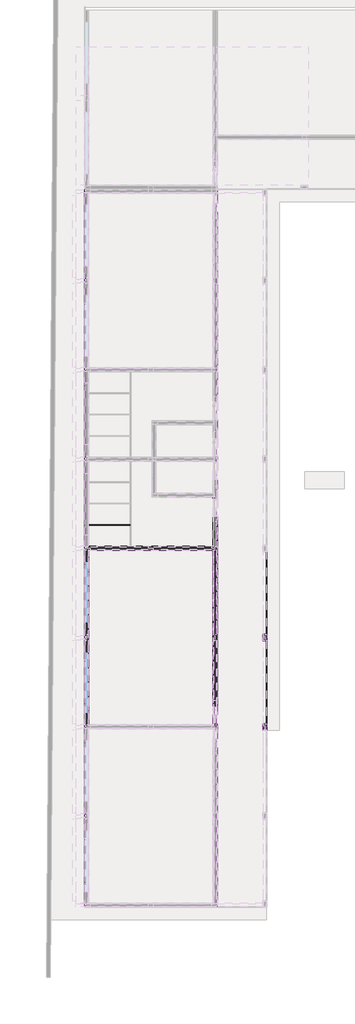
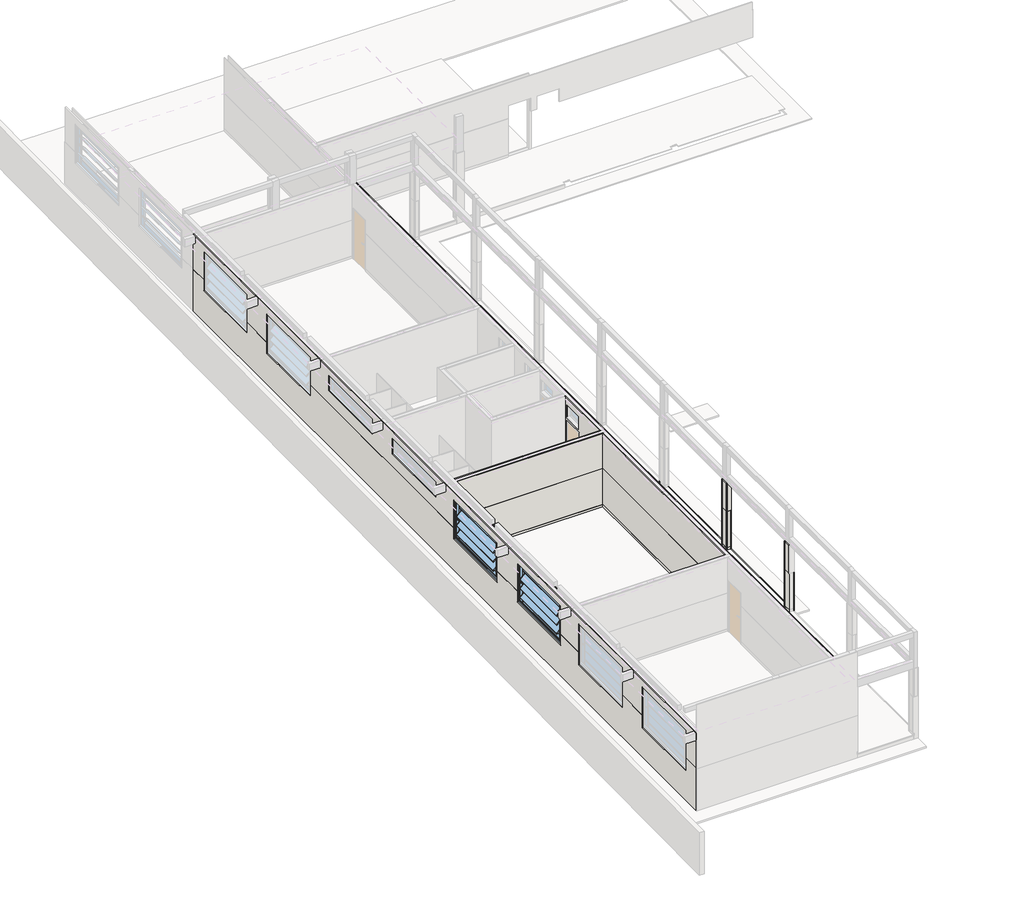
# One storey, part 2 of 11: 46 walls, 2 windows.
"""IFC4 building model written with IfcOpenShell, lengths in millimetres."""

from ifc_helpers import new_model, si_unit, frame, origin, place, context, project, spatial, polyline, outline, extrude, faceted_brep, transform, mapped, element, save
from components import window_9a90df48

model = new_model("IFC4")

# Units and contexts
model_context = context("Model", 3, world=origin())
ifc_project = project(units=[si_unit("LENGTHUNIT", "METRE", prefix="MILLI")], contexts=[model_context])

# Site, building, storey
site = spatial("IfcSite", under=ifc_project)
building = spatial("IfcBuilding", under=site)
storey = spatial("IfcBuildingStorey", under=building, Name="NÍVEL 1", Elevation=43.4413576)

# Walls
placement = place(None, origin())
element("IfcWall", 1, ObjectType="RODAPÉ EM GRANILITE", at=placement, inside=storey, context=model_context, shape_type="Brep", body=[
    faceted_brep([(11672.3574069, -17767.9280358, 43.4413576), (11502.3574069, -17767.9280358, 43.4413576), (11502.3574069, -17767.9280358, 143.4413576), (11672.3574069, -17767.9280358, 143.4413576), (11672.3574069, -17797.9280358, 43.4413576), (11672.3574069, -17797.9280358, 143.4413576), (11532.3574069, -17797.9280358, 143.4413576), (11502.3574069, -17797.9280358, 143.4413576), (11502.3574069, -17797.9280358, 43.4413576), (11532.3574069, -17797.9280358, 43.4413576), (11672.3574069, -17782.9280358, 43.4413576)], [[[0, 1, 2, 3]], [[4, 5, 6, 7, 8, 9]], [[1, 0, 10, 4, 9, 8]], [[3, 2, 7, 6, 5]], [[2, 1, 8, 7]], [[0, 3, 5, 4, 10]]]),
])
element("IfcWall", 2, ObjectType="RODAPÉ EM GRANILITE", at=placement, inside=storey, context=model_context, shape_type="Brep", body=[
    faceted_brep([(11502.3574069, -17797.9280358, 43.4413576), (11502.3574069, -18087.9280358, 43.4413576), (11502.3574069, -18087.9280358, 143.4413576), (11502.3574069, -17797.9280358, 143.4413576), (11532.3574069, -17797.9280358, 43.4413576), (11532.3574069, -17797.9280358, 143.4413576), (11532.3574069, -18057.9280358, 143.4413576), (11532.3574069, -18087.9280358, 143.4413576), (11532.3574069, -18087.9280358, 43.4413576), (11532.3574069, -18057.9280358, 43.4413576)], [[[0, 1, 2, 3]], [[4, 5, 6, 7, 8, 9]], [[1, 0, 4, 9, 8]], [[3, 2, 7, 6, 5]], [[0, 3, 5, 4]], [[2, 1, 8, 7]]]),
])
element("IfcWall", 3, ObjectType="RODAPÉ EM GRANILITE", at=placement, inside=storey, context=model_context, shape_type="Brep", body=[
    faceted_brep([(11672.3574069, -13467.9280358, 43.4413576), (11502.3574069, -13467.9280358, 43.4413576), (11502.3574069, -13467.9280358, 143.4413576), (11672.3574069, -13467.9280358, 143.4413576), (11672.3574069, -13497.9280358, 43.4413576), (11672.3574069, -13497.9280358, 143.4413576), (11532.3574069, -13497.9280358, 143.4413576), (11502.3574069, -13497.9280358, 143.4413576), (11502.3574069, -13497.9280358, 43.4413576), (11532.3574069, -13497.9280358, 43.4413576), (11672.3574069, -13482.9280358, 43.4413576)], [[[0, 1, 2, 3]], [[4, 5, 6, 7, 8, 9]], [[1, 0, 10, 4, 9, 8]], [[3, 2, 7, 6, 5]], [[2, 1, 8, 7]], [[0, 3, 5, 4, 10]]]),
])
element("IfcWall", 4, ObjectType="RODAPÉ EM GRANILITE", at=placement, inside=storey, context=model_context, shape_type="Brep", body=[
    faceted_brep([(11502.3574069, -13497.9280358, 43.4413576), (11502.3574069, -13787.9280358, 43.4413576), (11502.3574069, -13787.9280358, 143.4413576), (11502.3574069, -13497.9280358, 143.4413576), (11532.3574069, -13497.9280358, 43.4413576), (11532.3574069, -13497.9280358, 143.4413576), (11532.3574069, -13757.9280358, 143.4413576), (11532.3574069, -13787.9280358, 143.4413576), (11532.3574069, -13787.9280358, 43.4413576), (11532.3574069, -13757.9280358, 43.4413576)], [[[0, 1, 2, 3]], [[4, 5, 6, 7, 8, 9]], [[1, 0, 4, 9, 8]], [[3, 2, 7, 6, 5]], [[0, 3, 5, 4]], [[2, 1, 8, 7]]]),
])
element("IfcWall", 5, ObjectType="RODAPÉ EM GRANILITE", at=placement, inside=storey, context=model_context, shape_type="Brep", body=[
    faceted_brep([(11532.3574069, -13787.9280358, 43.4413576), (11672.3574069, -13787.9280358, 43.4413576), (11672.3574069, -13787.9280358, 143.4413576), (11532.3574069, -13787.9280358, 143.4413576), (11532.3574069, -13757.9280358, 43.4413576), (11532.3574069, -13757.9280358, 143.4413576), (11672.3574069, -13757.9280358, 143.4413576), (11672.3574069, -13757.9280358, 43.4413576), (11672.3574069, -13772.9280358, 43.4413576)], [[[0, 1, 2, 3]], [[4, 5, 6, 7]], [[1, 0, 4, 7, 8]], [[3, 2, 6, 5]], [[0, 3, 5, 4]], [[2, 1, 8, 7, 6]]]),
])
element("IfcWall", 6, ObjectType="RODAPÉ EM GRANILITE", at=placement, inside=storey, context=model_context, shape_type="Brep", body=[
    faceted_brep([(11672.3574069, -9167.9280358, 43.4413576), (11502.3574069, -9167.9280358, 43.4413576), (11502.3574069, -9167.9280358, 143.4413576), (11672.3574069, -9167.9280358, 143.4413576), (11672.3574069, -9197.9280358, 43.4413576), (11672.3574069, -9197.9280358, 143.4413576), (11532.3574069, -9197.9280358, 143.4413576), (11502.3574069, -9197.9280358, 143.4413576), (11502.3574069, -9197.9280358, 43.4413576), (11532.3574069, -9197.9280358, 43.4413576), (11672.3574069, -9182.9280358, 43.4413576)], [[[0, 1, 2, 3]], [[4, 5, 6, 7, 8, 9]], [[1, 0, 10, 4, 9, 8]], [[3, 2, 7, 6, 5]], [[2, 1, 8, 7]], [[0, 3, 5, 4, 10]]]),
])
element("IfcWall", 7, ObjectType="MASSA ÚNICA PARA BARRADO", at=placement, inside=storey, context=model_context, shape_type="Brep", body=[
    faceted_brep([(11702.3574069, -13482.9280358, -106.5586424), (11702.3574069, -9472.9280358, -106.5586424), (11702.3574069, -9472.9280358, 43.4413576), (11702.3574069, -9487.9280358, 43.4413576), (11702.3574069, -13467.9280358, 43.4413576), (11702.3574069, -13482.9280358, 43.4413576), (11672.3574069, -13482.9280358, -106.5586424), (11672.3574069, -13482.9280358, 43.4413576), (11672.3574069, -13467.9280358, 43.4413576), (11672.3574069, -9487.9280358, 43.4413576), (11672.3574069, -9472.9280358, 43.4413576), (11672.3574069, -9472.9280358, -106.5586424)], [[[0, 1, 2, 3, 4, 5]], [[6, 7, 8, 9, 10, 11]], [[1, 0, 6, 11]], [[2, 1, 11, 10]], [[5, 4, 3, 2, 10, 9, 8, 7]], [[0, 5, 7, 6]]]),
])
element("IfcWall", 8, ObjectType="MASSA ÚNICA PARA BARRADO", at=placement, inside=storey, context=model_context, shape_type="Brep", body=[
    faceted_brep([(11702.3574069, -13772.9280358, -106.5586424), (11702.3574069, -13482.9280358, -106.5586424), (11702.3574069, -13482.9280358, 43.4413576), (11702.3574069, -13467.9280358, 43.4413576), (11702.3574069, -13467.9280358, 1663.4413576), (11702.3574069, -13787.9280358, 1663.4413576), (11702.3574069, -13787.9280358, 43.4413576), (11702.3574069, -13772.9280358, 43.4413576), (11672.3574069, -13772.9280358, -106.5586424), (11672.3574069, -13772.9280358, 43.4413576), (11672.3574069, -13787.9280358, 43.4413576), (11672.3574069, -13787.9280358, 143.4413576), (11672.3574069, -13787.9280358, 1663.4413576), (11672.3574069, -13757.9280358, 1663.4413576), (11672.3574069, -13497.9280358, 1663.4413576), (11672.3574069, -13467.9280358, 1663.4413576), (11672.3574069, -13467.9280358, 143.4413576), (11672.3574069, -13467.9280358, 43.4413576), (11672.3574069, -13482.9280358, 43.4413576), (11672.3574069, -13482.9280358, -106.5586424)], [[[0, 1, 2, 3, 4, 5, 6, 7]], [[8, 9, 10, 11, 12, 13, 14, 15, 16, 17, 18, 19]], [[1, 0, 8, 19]], [[5, 4, 15, 14, 13, 12]], [[0, 7, 9, 8]], [[6, 10, 9, 7]], [[2, 1, 19, 18]], [[17, 3, 2, 18]], [[3, 17, 16, 15, 4]], [[5, 12, 11, 10, 6]]]),
])
element("IfcWall", 9, ObjectType="MASSA ÚNICA PARA BARRADO", at=placement, inside=storey, context=model_context, shape_type="Brep", body=[
    faceted_brep([(11702.3574069, -17782.9280358, -106.5586424), (11702.3574069, -13772.9280358, -106.5586424), (11702.3574069, -13772.9280358, 43.4413576), (11702.3574069, -13787.9280358, 43.4413576), (11702.3574069, -17767.9280358, 43.4413576), (11702.3574069, -17782.9280358, 43.4413576), (11672.3574069, -17782.9280358, -106.5586424), (11672.3574069, -17782.9280358, 43.4413576), (11672.3574069, -17767.9280358, 43.4413576), (11672.3574069, -13787.9280358, 43.4413576), (11672.3574069, -13772.9280358, 43.4413576), (11672.3574069, -13772.9280358, -106.5586424)], [[[0, 1, 2, 3, 4, 5]], [[6, 7, 8, 9, 10, 11]], [[1, 0, 6, 11]], [[2, 1, 11, 10]], [[5, 4, 3, 2, 10, 9, 8, 7]], [[0, 5, 7, 6]]]),
])
element("IfcWall", 10, ObjectType="MASSA ÚNICA PARA BARRADO", at=placement, inside=storey, context=model_context, shape_type="Brep", body=[
    faceted_brep([(11702.3574069, -18072.9280358, -106.5586424), (11702.3574069, -17782.9280358, -106.5586424), (11702.3574069, -17782.9280358, 43.4413576), (11702.3574069, -17767.9280358, 43.4413576), (11702.3574069, -17767.9280358, 1663.4413576), (11702.3574069, -18087.9280358, 1663.4413576), (11702.3574069, -18087.9280358, 43.4413576), (11702.3574069, -18072.9280358, 43.4413576), (11672.3574069, -18072.9280358, -106.5586424), (11672.3574069, -18072.9280358, 43.4413576), (11672.3574069, -18087.9280358, 43.4413576), (11672.3574069, -18087.9280358, 143.4413576), (11672.3574069, -18087.9280358, 1663.4413576), (11672.3574069, -18057.9280358, 1663.4413576), (11672.3574069, -17797.9280358, 1663.4413576), (11672.3574069, -17767.9280358, 1663.4413576), (11672.3574069, -17767.9280358, 143.4413576), (11672.3574069, -17767.9280358, 43.4413576), (11672.3574069, -17782.9280358, 43.4413576), (11672.3574069, -17782.9280358, -106.5586424)], [[[0, 1, 2, 3, 4, 5, 6, 7]], [[8, 9, 10, 11, 12, 13, 14, 15, 16, 17, 18, 19]], [[1, 0, 8, 19]], [[5, 4, 15, 14, 13, 12]], [[0, 7, 9, 8]], [[6, 10, 9, 7]], [[2, 1, 19, 18]], [[17, 3, 2, 18]], [[3, 17, 16, 15, 4]], [[5, 12, 11, 10, 6]]]),
])
element("IfcWall", 11, ObjectType="PARE.ALVE ALVENARIA DE BLOCOS CERÂMICOS FURADOS NA HORIZONTAL 14X9X19", at=placement, inside=storey, context=model_context, shape_type="Brep", body=[
    faceted_brep([(3072.3574069, -17857.9280358, 43.4413576), (3072.3574069, -13757.9280358, 43.4413576), (3072.3574069, -13757.9280358, 1003.4413576), (3072.3574069, -17857.9280358, 1003.4413576), (3072.3574069, -17857.9280358, 163.4413576), (3072.3574069, -17857.9280358, 63.4413576), (2932.3574069, -13757.9280358, 43.4413576), (2932.3574069, -17857.9280358, 43.4413576), (2932.3574069, -17857.9280358, 1003.4413576), (2932.3574069, -13757.9280358, 1003.4413576)], [[[0, 1, 2, 3, 4, 5]], [[6, 7, 8, 9]], [[1, 0, 7, 6]], [[1, 6, 9, 2]], [[3, 2, 9, 8]], [[7, 0, 5, 4, 3, 8]]]),
    faceted_brep([(3072.3574069, -17857.9280358, 2843.4413576), (3072.3574069, -17857.9280358, 1663.4413576), (3072.3574069, -17857.9280358, 1203.4413576), (3072.3574069, -17307.9280358, 1203.4413576), (3072.3574069, -17307.9280358, 2843.4413576), (2932.3574069, -17857.9280358, 1203.4413576), (2932.3574069, -17857.9280358, 2843.4413576), (2932.3574069, -17307.9280358, 2843.4413576), (2932.3574069, -17307.9280358, 1203.4413576)], [[[0, 1, 2, 3, 4]], [[5, 6, 7, 8]], [[6, 0, 4, 7]], [[2, 5, 8, 3]], [[0, 6, 5, 2, 1]], [[4, 3, 8, 7]]]),
    faceted_brep([(3072.3574069, -13757.9280358, 1203.4413576), (3072.3574069, -13757.9280358, 2843.4413576), (3072.3574069, -14307.9280358, 2843.4413576), (3072.3574069, -14307.9280358, 1203.4413576), (2932.3574069, -13757.9280358, 2843.4413576), (2932.3574069, -13757.9280358, 1203.4413576), (2932.3574069, -14307.9280358, 1203.4413576), (2932.3574069, -14307.9280358, 2843.4413576)], [[[0, 1, 2, 3]], [[4, 5, 6, 7]], [[4, 1, 0, 5]], [[1, 4, 7, 2]], [[5, 0, 3, 6]], [[3, 2, 7, 6]]]),
])
element("IfcWall", 12, ObjectType="PARE.ALVE ALVENARIA DE BLOCOS CERÂMICOS FURADOS NA HORIZONTAL 14X9X19", at=placement, inside=storey, context=model_context, shape_type="Brep", body=[
    faceted_brep([(3072.3574069, -13497.9280358, 43.4413576), (3072.3574069, -9397.9280358, 43.4413576), (3072.3574069, -9397.9280358, 63.4413576), (3072.3574069, -9397.9280358, 163.4413576), (3072.3574069, -9397.9280358, 1003.4413576), (3072.3574069, -13497.9280358, 1003.4413576), (2932.3574069, -9397.9280358, 43.4413576), (2932.3574069, -13497.9280358, 43.4413576), (2932.3574069, -13497.9280358, 1003.4413576), (2932.3574069, -9397.9280358, 1003.4413576)], [[[0, 1, 2, 3, 4, 5]], [[6, 7, 8, 9]], [[1, 0, 7, 6]], [[7, 0, 5, 8]], [[5, 4, 9, 8]], [[1, 6, 9, 4, 3, 2]]]),
    faceted_brep([(3072.3574069, -13497.9280358, 2843.4413576), (3072.3574069, -13497.9280358, 1203.4413576), (3072.3574069, -12947.9280358, 1203.4413576), (3072.3574069, -12947.9280358, 2843.4413576), (2932.3574069, -13497.9280358, 1203.4413576), (2932.3574069, -13497.9280358, 2843.4413576), (2932.3574069, -12947.9280358, 2843.4413576), (2932.3574069, -12947.9280358, 1203.4413576)], [[[0, 1, 2, 3]], [[4, 5, 6, 7]], [[5, 0, 3, 6]], [[0, 5, 4, 1]], [[1, 4, 7, 2]], [[3, 2, 7, 6]]]),
    faceted_brep([(3072.3574069, -9397.9280358, 1203.4413576), (3072.3574069, -9397.9280358, 1663.4413576), (3072.3574069, -9397.9280358, 2843.4413576), (3072.3574069, -9947.9280358, 2843.4413576), (3072.3574069, -9947.9280358, 1203.4413576), (2932.3574069, -9397.9280358, 2843.4413576), (2932.3574069, -9397.9280358, 1203.4413576), (2932.3574069, -9947.9280358, 1203.4413576), (2932.3574069, -9947.9280358, 2843.4413576)], [[[0, 1, 2, 3, 4]], [[5, 6, 7, 8]], [[2, 5, 8, 3]], [[6, 0, 4, 7]], [[5, 2, 1, 0, 6]], [[4, 3, 8, 7]]]),
])
element("IfcWall", 13, ObjectType="PARE.ALVE ALVENARIA DE BLOCOS CERÂMICOS FURADOS NA HORIZONTAL 14X9X19", at=placement, inside=storey, context=model_context, shape_type="SweptSolid", body=[
    extrude(outline(polyline([(5972.3574069, -9397.9280358), (3192.3574069, -9397.9280358), (3192.3574069, -9257.9280358), (5972.3574069, -9257.9280358), (5972.3574069, -9397.9280358)])), frame((0.0, 0.0, 43.4413576), z_axis=(0.0, 0.0, 1.0), x_axis=(1.0, 0.0, 0.0)), (0.0, 0.0, 1.0), 2800.0),
])
element("IfcWall", 14, ObjectType="PARE.ALVE ALVENARIA DE BLOCOS CERÂMICOS FURADOS NA HORIZONTAL 14X9X19", at=placement, inside=storey, context=model_context, shape_type="SweptSolid", body=[
    extrude(outline(polyline([(9012.3574069, -9397.9280358), (6232.3574069, -9397.9280358), (6232.3574069, -9257.9280358), (9012.3574069, -9257.9280358), (9012.3574069, -9397.9280358)])), frame((0.0, 0.0, 43.4413576), z_axis=(0.0, 0.0, 1.0), x_axis=(1.0, 0.0, 0.0)), (0.0, 0.0, 1.0), 2800.0),
])
element("IfcWall", 15, ObjectType="PARE.ALVE ALVENARIA DE BLOCOS CERÂMICOS FURADOS NA HORIZONTAL 14X9X19", at=placement, inside=storey, context=model_context, shape_type="Brep", body=[
    faceted_brep([(9132.3574069, -9397.9280358, 2843.4413576), (9132.3574069, -9397.9280358, 1663.4413576), (9132.3574069, -9397.9280358, 163.4413576), (9132.3574069, -9397.9280358, 63.4413576), (9132.3574069, -9397.9280358, 43.4413576), (9132.3574069, -13497.9280358, 43.4413576), (9132.3574069, -13497.9280358, 2843.4413576), (9272.3574069, -9397.9280358, 43.4413576), (9272.3574069, -9397.9280358, 2843.4413576), (9272.3574069, -13497.9280358, 2843.4413576), (9272.3574069, -13497.9280358, 43.4413576)], [[[0, 1, 2, 3, 4, 5, 6]], [[7, 8, 9, 10]], [[5, 4, 7, 10]], [[6, 5, 10, 9]], [[0, 6, 9, 8]], [[0, 8, 7, 4, 3, 2, 1]]]),
])
element("IfcWall", 16, ObjectType="PARE.ALVE ALVENARIA DE BLOCOS CERÂMICOS FURADOS NA HORIZONTAL 14X9X19", at=placement, inside=storey, context=model_context, shape_type="Brep", body=[
    faceted_brep([(9132.3574069, -17857.9280358, 2843.4413576), (9132.3574069, -13757.9280358, 2843.4413576), (9132.3574069, -13757.9280358, 43.4413576), (9132.3574069, -16937.9280358, 43.4413576), (9132.3574069, -16937.9280358, 2163.4413576), (9132.3574069, -17777.9280358, 2163.4413576), (9132.3574069, -17777.9280358, 43.4413576), (9132.3574069, -17857.9280358, 43.4413576), (9132.3574069, -17857.9280358, 63.4413576), (9132.3574069, -17857.9280358, 163.4413576), (9132.3574069, -17857.9280358, 1663.4413576), (9132.3574069, -17857.9280358, 2208.4413576), (9132.3574069, -16657.9280358, 2208.4413576), (9132.3574069, -16657.9280358, 2308.4413576), (9132.3574069, -17857.9280358, 2308.4413576), (9272.3574069, -13757.9280358, 2843.4413576), (9272.3574069, -17857.9280358, 2843.4413576), (9272.3574069, -17857.9280358, 2308.4413576), (9272.3574069, -16657.9280358, 2308.4413576), (9272.3574069, -16657.9280358, 2208.4413576), (9272.3574069, -17857.9280358, 2208.4413576), (9272.3574069, -17857.9280358, 43.4413576), (9272.3574069, -17777.9280358, 43.4413576), (9272.3574069, -17777.9280358, 2163.4413576), (9272.3574069, -16937.9280358, 2163.4413576), (9272.3574069, -16937.9280358, 43.4413576), (9272.3574069, -13757.9280358, 43.4413576)], [[[0, 1, 2, 3, 4, 5, 6, 7, 8, 9, 10, 11, 12, 13, 14]], [[15, 16, 17, 18, 19, 20, 21, 22, 23, 24, 25, 26]], [[2, 26, 25, 3]], [[7, 6, 22, 21]], [[1, 0, 16, 15]], [[2, 1, 15, 26]], [[6, 5, 23, 22]], [[4, 3, 25, 24]], [[5, 4, 24, 23]], [[13, 18, 17, 14]], [[19, 12, 11, 20]], [[18, 13, 12, 19]], [[7, 21, 20, 11, 10, 9, 8]], [[16, 0, 14, 17]]]),
])
element("IfcWall", 17, ObjectType="REVE.RODA RODAPÉ CERÂMICO TIPO GRÊS 60X60CM", at=placement, inside=storey, context=model_context, shape_type="Brep", body=[
    faceted_brep([(9102.3574069, -9227.9280358, 63.4413576), (9102.3574069, -9227.9280358, 3143.4413576), (9102.3574069, -6877.9280358, 3143.4413576), (9102.3574069, -6847.9280358, 3143.4413576), (9102.3574069, -6847.9280358, 63.4413576), (9102.3574069, -6877.9280358, 63.4413576), (9102.3574069, -6927.9280358, 63.4413576), (9102.3574069, -6927.9280358, 2213.4413576), (9102.3574069, -7827.9280358, 2213.4413576), (9102.3574069, -7827.9280358, 63.4413576), (9102.3574069, -6967.9280358, 2843.4413576), (9102.3574069, -7767.9351878, 2843.4413576), (9102.3574069, -7767.9351878, 2313.4413576), (9102.3574069, -6967.9280358, 2313.4413576), (9132.3574069, -9227.9280358, 3143.4413576), (9132.3574069, -9227.9280358, 63.4413576), (9132.3574069, -7827.9280358, 63.4413576), (9132.3574069, -7827.9280358, 2213.4413576), (9132.3574069, -6927.9280358, 2213.4413576), (9132.3574069, -6927.9280358, 63.4413576), (9132.3574069, -6847.9280358, 63.4413576), (9132.3574069, -6847.9280358, 2843.4413576), (9132.3574069, -6847.9280358, 3143.4413576), (9132.3574069, -7767.9351878, 2843.4413576), (9132.3574069, -6967.9280358, 2843.4413576), (9132.3574069, -6967.9280358, 2313.4413576), (9132.3574069, -7767.9351878, 2313.4413576)], [[[0, 1, 2, 3, 4, 5, 6, 7, 8, 9], [10, 11, 12, 13]], [[14, 15, 16, 17, 18, 19, 20, 21, 22], [23, 24, 25, 26]], [[4, 20, 19, 6, 5]], [[15, 0, 9, 16]], [[3, 2, 1, 14, 22]], [[0, 15, 14, 1]], [[4, 3, 22, 21, 20]], [[7, 18, 17, 8]], [[18, 7, 6, 19]], [[8, 17, 16, 9]], [[10, 24, 23, 11]], [[12, 26, 25, 13]], [[24, 10, 13, 25]], [[11, 23, 26, 12]]]),
])
element("IfcWall", 18, ObjectType="REVE.RODA RODAPÉ CERÂMICO TIPO GRÊS 60X60CM", at=placement, inside=storey, context=model_context, shape_type="Brep", body=[
    faceted_brep([(9132.3574069, -9227.9280358, 3143.4413576), (9132.3574069, -9227.9280358, 63.4413576), (9102.3574069, -9227.9280358, 63.4413576), (3102.3574069, -9227.9280358, 63.4413576), (3072.3574069, -9227.9280358, 63.4413576), (3072.3574069, -9227.9280358, 3143.4413576), (3102.3574069, -9227.9280358, 3143.4413576), (9102.3574069, -9227.9280358, 3143.4413576), (9132.3574069, -9257.9280358, 63.4413576), (9132.3574069, -9257.9280358, 3143.4413576), (3072.3574069, -9257.9280358, 3143.4413576), (3072.3574069, -9257.9280358, 63.4413576)], [[[0, 1, 2, 3, 4, 5, 6, 7]], [[8, 9, 10, 11]], [[4, 3, 2, 1, 8, 11]], [[0, 7, 6, 5, 10, 9]], [[0, 9, 8, 1]], [[5, 4, 11, 10]]]),
])
element("IfcWall", 19, ObjectType="Divisória em granito cinza andorinha", at=placement, inside=storey, context=model_context, shape_type="SweptSolid", body=[
    extrude(outline(polyline([(5102.3574069, -8217.9280358), (3102.3574069, -8217.9280358), (3102.3574069, -8187.9280358), (5102.3574069, -8187.9280358), (5102.3574069, -8217.9280358)])), frame((0.0, 0.0, 43.4413576), z_axis=(0.0, 0.0, 1.0), x_axis=(1.0, 0.0, 0.0)), (0.0, 0.0, 1.0), 1800.0),
])
element("IfcWall", 20, ObjectType="MASSA ÚNICA PARA BARRADO", at=placement, inside=storey, context=model_context, shape_type="SweptSolid", body=[
    extrude(outline(polyline([(7942.0719642, -106.5586424), (-26597.9280358, -106.5586424), (-26597.9280358, 1663.4413576), (-25907.9280358, 1663.4413576), (-25907.9280358, 1129.4300076), (-22907.9478335, 1129.4300076), (-22907.9478335, 1663.4413576), (-21547.9478335, 1663.4413576), (-21547.9478335, 1123.4413576), (-18547.6114864, 1123.4413576), (-18547.6114864, 1663.4413576), (-17307.6114864, 1663.4413576), (-17307.6114864, 1203.4413576), (-14307.6114864, 1203.4413576), (-14307.6114864, 1663.4413576), (-12948.5295245, 1663.4413576), (-12948.5295245, 1203.4413576), (-9948.5295245, 1203.4413576), (-9948.5295245, 1663.4413576), (-107.9440407, 1663.4413576), (-107.9440407, 1203.4413576), (2893.0443409, 1203.4413576), (2893.0443409, 1663.4413576), (4253.0443409, 1663.4413576), (4253.0443409, 1203.4413576), (7252.0719642, 1203.4413576), (7252.0719642, 1663.4413576), (7942.0719642, 1663.4413576), (7942.0719642, -106.5586424)])), frame((2902.3574069, 0.0, 0.0), z_axis=(1.0, 0.0, 0.0), x_axis=(0.0, 1.0, 0.0)), (0.0, 0.0, 1.0), 30.0),
])
element("IfcWall", 21, ObjectType="MASSA ÚNICA SARRAFEADA PARA ACRILICO", at=placement, inside=storey, context=model_context, shape_type="Brep", body=[
    faceted_brep([(2902.3574069, -26597.9280358, 1663.4413576), (2902.3574069, -26597.9280358, 2843.4413576), (2902.3574069, -26597.9280358, 3143.4413576), (2902.3574069, -22327.9280358, 3143.4413576), (2902.3574069, -22297.9280358, 3143.4413576), (2902.3574069, -22157.9280358, 3143.4413576), (2902.3574069, -22127.9280358, 3143.4413576), (2902.3574069, -18027.9280358, 3143.4413576), (2902.3574069, -17997.9280358, 3143.4413576), (2902.3574069, -17857.9280358, 3143.4413576), (2902.3574069, -17827.9280358, 3143.4413576), (2902.3574069, -13727.9280358, 3143.4413576), (2902.3574069, -13697.9280358, 3143.4413576), (2902.3574069, -13557.9280358, 3143.4413576), (2902.3574069, -13527.9280358, 3143.4413576), (2902.3574069, -9427.9280358, 3143.4413576), (2902.3574069, -9397.9280358, 3143.4413576), (2902.3574069, -9257.9280358, 3143.4413576), (2902.3574069, -9227.9280358, 3143.4413576), (2902.3574069, -5127.9280358, 3143.4413576), (2902.3574069, -5097.9280358, 3143.4413576), (2902.3574069, -4957.9280358, 3143.4413576), (2902.3574069, -4927.9280358, 3143.4413576), (2902.3574069, -827.9280358, 3143.4413576), (2902.3574069, -797.9280358, 3143.4413576), (2902.3574069, -657.9280358, 3143.4413576), (2902.3574069, -627.9280358, 3143.4413576), (2902.3574069, 3472.0719642, 3143.4413576), (2902.3574069, 3502.0719642, 3143.4413576), (2902.3574069, 3642.0719642, 3143.4413576), (2902.3574069, 3672.0719642, 3143.4413576), (2902.3574069, 7942.0719642, 3143.4413576), (2902.3574069, 7942.0719642, 1663.4413576), (2902.3574069, 7252.0719642, 1663.4413576), (2902.3574069, 7252.0719642, 2843.4413576), (2902.3574069, 4252.0999545, 2843.4413576), (2902.3574069, 4252.0999545, 1663.4413576), (2902.3574069, 2892.0999545, 1663.4413576), (2902.3574069, 2892.0999545, 2843.4413576), (2902.3574069, -107.9720496, 2843.4413576), (2902.3574069, -107.9720496, 1663.4413576), (2902.3574069, -9947.8699531, 1663.4413576), (2902.3574069, -9947.8699531, 2843.4413576), (2902.3574069, -12947.829305, 2843.4413576), (2902.3574069, -12947.829305, 1663.4413576), (2902.3574069, -14307.829305, 1663.4413576), (2902.3574069, -14307.829305, 2843.4413576), (2902.3574069, -17307.9207723, 2843.4413576), (2902.3574069, -17307.9207723, 1663.4413576), (2902.3574069, -18547.9207723, 1663.4413576), (2902.3574069, -18547.9207723, 2843.4413576), (2902.3574069, -21549.098214, 2843.4413576), (2902.3574069, -21549.098214, 1663.4413576), (2902.3574069, -22907.9124641, 1663.4413576), (2902.3574069, -22907.9124641, 2843.4413576), (2902.3574069, -25907.9280358, 2843.4413576), (2902.3574069, -25907.9280358, 1663.4413576), (2902.3574069, -1347.9720496, 2843.4413576), (2902.3574069, -4347.9092488, 2843.4413576), (2902.3574069, -4347.9092488, 2203.4413576), (2902.3574069, -1347.9720496, 2203.4413576), (2902.3574069, -5707.8429596, 2843.4413576), (2902.3574069, -8705.5460955, 2843.4413576), (2902.3574069, -8705.5460955, 2203.4413576), (2902.3574069, -5707.8429596, 2203.4413576), (2932.3574069, -26597.9280358, 3143.4413576), (2932.3574069, -26597.9280358, 1663.4413576), (2932.3574069, -25907.9280358, 1663.4413576), (2932.3574069, -25907.9280358, 2843.4413576), (2932.3574069, -22907.9124641, 2843.4413576), (2932.3574069, -22907.9124641, 1663.4413576), (2932.3574069, -21549.098214, 1663.4413576), (2932.3574069, -21549.098214, 2843.4413576), (2932.3574069, -18547.9207723, 2843.4413576), (2932.3574069, -18547.9207723, 1663.4413576), (2932.3574069, -17307.9207723, 1663.4413576), (2932.3574069, -17307.9207723, 2843.4413576), (2932.3574069, -14307.829305, 2843.4413576), (2932.3574069, -14307.829305, 1663.4413576), (2932.3574069, -12947.829305, 1663.4413576), (2932.3574069, -12947.829305, 2843.4413576), (2932.3574069, -9947.8699531, 2843.4413576), (2932.3574069, -9947.8699531, 1663.4413576), (2932.3574069, -107.9720496, 1663.4413576), (2932.3574069, -107.9720496, 2843.4413576), (2932.3574069, 2892.0999545, 2843.4413576), (2932.3574069, 2892.0999545, 1663.4413576), (2932.3574069, 4252.0999545, 1663.4413576), (2932.3574069, 4252.0999545, 2843.4413576), (2932.3574069, 7252.0719642, 2843.4413576), (2932.3574069, 7252.0719642, 1663.4413576), (2932.3574069, 7942.0719642, 1663.4413576), (2932.3574069, 7942.0719642, 3143.4413576), (2932.3574069, -4347.9092488, 2843.4413576), (2932.3574069, -1347.9720496, 2843.4413576), (2932.3574069, -1347.9720496, 2203.4413576), (2932.3574069, -4347.9092488, 2203.4413576), (2932.3574069, -8705.5460955, 2843.4413576), (2932.3574069, -5707.8429596, 2843.4413576), (2932.3574069, -5707.8429596, 2203.4413576), (2932.3574069, -8705.5460955, 2203.4413576)], [[[0, 1, 2, 3, 4, 5, 6, 7, 8, 9, 10, 11, 12, 13, 14, 15, 16, 17, 18, 19, 20, 21, 22, 23, 24, 25, 26, 27, 28, 29, 30, 31, 32, 33, 34, 35, 36, 37, 38, 39, 40, 41, 42, 43, 44, 45, 46, 47, 48, 49, 50, 51, 52, 53, 54, 55, 56], [57, 58, 59, 60], [61, 62, 63, 64]], [[65, 66, 67, 68, 69, 70, 71, 72, 73, 74, 75, 76, 77, 78, 79, 80, 81, 82, 83, 84, 85, 86, 87, 88, 89, 90, 91, 92], [93, 94, 95, 96], [97, 98, 99, 100]], [[32, 91, 90, 33]], [[66, 0, 56, 67]], [[36, 87, 86, 37]], [[40, 83, 82, 41]], [[78, 45, 44, 79]], [[48, 75, 74, 49]], [[52, 71, 70, 53]], [[31, 30, 29, 28, 27, 26, 25, 24, 23, 22, 21, 20, 19, 18, 17, 16, 15, 14, 13, 12, 11, 10, 9, 8, 7, 6, 5, 4, 3, 2, 65, 92]], [[32, 31, 92, 91]], [[0, 66, 65, 2, 1]], [[34, 89, 88, 35]], [[89, 34, 33, 90]], [[35, 88, 87, 36]], [[38, 85, 84, 39]], [[85, 38, 37, 86]], [[39, 84, 83, 40]], [[57, 94, 93, 58]], [[59, 96, 95, 60]], [[94, 57, 60, 95]], [[58, 93, 96, 59]], [[61, 98, 97, 62]], [[63, 100, 99, 64]], [[98, 61, 64, 99]], [[62, 97, 100, 63]], [[42, 81, 80, 43]], [[81, 42, 41, 82]], [[43, 80, 79, 44]], [[46, 77, 76, 47]], [[77, 46, 45, 78]], [[47, 76, 75, 48]], [[50, 73, 72, 51]], [[73, 50, 49, 74]], [[51, 72, 71, 52]], [[54, 69, 68, 55]], [[69, 54, 53, 70]], [[55, 68, 67, 56]]]),
])
element("IfcWall", 22, ObjectType="RODAPÉ EM GRANILITE", at=placement, inside=storey, context=model_context, shape_type="Brep", body=[
    faceted_brep([(3072.3574069, -9427.9280358, 63.4413576), (3102.3574069, -9427.9280358, 63.4413576), (9102.3574069, -9427.9280358, 63.4413576), (9132.3574069, -9427.9280358, 63.4413576), (9132.3574069, -9427.9280358, 163.4413576), (9102.3574069, -9427.9280358, 163.4413576), (3102.3574069, -9427.9280358, 163.4413576), (3072.3574069, -9427.9280358, 163.4413576), (3072.3574069, -9397.9280358, 63.4413576), (3072.3574069, -9397.9280358, 163.4413576), (9132.3574069, -9397.9280358, 163.4413576), (9132.3574069, -9397.9280358, 63.4413576)], [[[0, 1, 2, 3, 4, 5, 6, 7]], [[8, 9, 10, 11]], [[3, 2, 1, 0, 8, 11]], [[7, 6, 5, 4, 10, 9]], [[0, 7, 9, 8]], [[4, 3, 11, 10]]]),
])
element("IfcWall", 23, ObjectType="RODAPÉ EM GRANILITE", at=placement, inside=storey, context=model_context, shape_type="SweptSolid", body=[
    extrude(outline(polyline([(9102.3574069, -16907.9280358), (9102.3574069, -9427.9280358), (9132.3574069, -9427.9280358), (9132.3574069, -16907.9280358), (9102.3574069, -16907.9280358)])), frame((0.0, 0.0, 63.4413576), z_axis=(0.0, 0.0, 1.0), x_axis=(1.0, 0.0, 0.0)), (0.0, 0.0, 1.0), 100.0),
])
element("IfcWall", 24, ObjectType="RODAPÉ EM GRANILITE", at=placement, inside=storey, context=model_context, shape_type="SweptSolid", body=[
    extrude(outline(polyline([(3102.3574069, -9427.9280358), (3102.3574069, -17827.9280358), (3072.3574069, -17827.9280358), (3072.3574069, -9427.9280358), (3102.3574069, -9427.9280358)])), frame((0.0, 0.0, 63.4413576), z_axis=(0.0, 0.0, 1.0), x_axis=(1.0, 0.0, 0.0)), (0.0, 0.0, 1.0), 100.0),
])
element("IfcWall", 25, ObjectType="RODAPÉ EM GRANILITE", at=placement, inside=storey, context=model_context, shape_type="SweptSolid", body=[
    extrude(outline(polyline([(9302.3574069, -7822.9280358), (9302.3574069, -16912.9280358), (9272.3574069, -16912.9280358), (9272.3574069, -7822.9280358), (9302.3574069, -7822.9280358)])), frame((0.0, 0.0, 43.4413576), z_axis=(0.0, 0.0, 1.0), x_axis=(1.0, 0.0, 0.0)), (0.0, 0.0, 1.0), 100.0),
])
element("IfcWall", 26, ObjectType="MASSA ÚNICA PARA BARRADO", at=placement, inside=storey, context=model_context, shape_type="Brep", body=[
    faceted_brep([(3072.3574069, -9427.9280358, 163.4413576), (3102.3574069, -9427.9280358, 163.4413576), (9102.3574069, -9427.9280358, 163.4413576), (9132.3574069, -9427.9280358, 163.4413576), (9132.3574069, -9427.9280358, 1663.4413576), (9102.3574069, -9427.9280358, 1663.4413576), (3102.3574069, -9427.9280358, 1663.4413576), (3072.3574069, -9427.9280358, 1663.4413576), (3072.3574069, -9397.9280358, 163.4413576), (3072.3574069, -9397.9280358, 1003.4413576), (3072.3574069, -9397.9280358, 1203.4413576), (3072.3574069, -9397.9280358, 1663.4413576), (9132.3574069, -9397.9280358, 1663.4413576), (9132.3574069, -9397.9280358, 163.4413576)], [[[0, 1, 2, 3, 4, 5, 6, 7]], [[8, 9, 10, 11, 12, 13]], [[3, 2, 1, 0, 8, 13]], [[7, 6, 5, 4, 12, 11]], [[0, 7, 11, 10, 9, 8]], [[4, 3, 13, 12]]]),
])
element("IfcWall", 27, ObjectType="MASSA ÚNICA PARA BARRADO", at=placement, inside=storey, context=model_context, shape_type="SweptSolid", body=[
    extrude(outline(polyline([(9102.3574069, -16907.9280358), (9102.3574069, -9427.9280358), (9132.3574069, -9427.9280358), (9132.3574069, -16907.9280358), (9102.3574069, -16907.9280358)])), frame((0.0, 0.0, 163.4413576), z_axis=(0.0, 0.0, 1.0), x_axis=(1.0, 0.0, 0.0)), (0.0, 0.0, 1.0), 1500.0),
])
element("IfcWall", 28, ObjectType="MASSA ÚNICA PARA BARRADO", at=placement, inside=storey, context=model_context, shape_type="SweptSolid", body=[
    extrude(outline(polyline([(-9427.9280358, 163.4413576), (-17827.9280358, 163.4413576), (-17827.9280358, 1663.4413576), (-17307.9280358, 1663.4413576), (-17307.9280358, 1203.4413576), (-14307.8765375, 1203.4413576), (-14307.8765375, 1663.4413576), (-12947.8765375, 1663.4413576), (-12947.8765375, 1203.4413576), (-9947.9280358, 1203.4413576), (-9947.9280358, 1663.4413576), (-9427.9280358, 1663.4413576), (-9427.9280358, 163.4413576)])), frame((3072.3574069, 0.0, 0.0), z_axis=(1.0, 0.0, 0.0), x_axis=(0.0, 1.0, 0.0)), (0.0, 0.0, 1.0), 30.0),
])
element("IfcWall", 29, ObjectType="MASSA ÚNICA PARA LATEX", at=placement, inside=storey, context=model_context, shape_type="Brep", body=[
    faceted_brep([(3072.3574069, -9427.9280358, 1663.4413576), (3102.3574069, -9427.9280358, 1663.4413576), (9102.3574069, -9427.9280358, 1663.4413576), (9132.3574069, -9427.9280358, 1663.4413576), (9132.3574069, -9427.9280358, 3143.4413576), (9102.3574069, -9427.9280358, 3143.4413576), (3102.3574069, -9427.9280358, 3143.4413576), (3072.3574069, -9427.9280358, 3143.4413576), (3072.3574069, -9397.9280358, 1663.4413576), (3072.3574069, -9397.9280358, 2843.4413576), (3072.3574069, -9397.9280358, 3143.4413576), (9132.3574069, -9397.9280358, 3143.4413576), (9132.3574069, -9397.9280358, 2843.4413576), (9132.3574069, -9397.9280358, 1663.4413576)], [[[0, 1, 2, 3, 4, 5, 6, 7]], [[8, 9, 10, 11, 12, 13]], [[3, 2, 1, 0, 8, 13]], [[7, 6, 5, 4, 11, 10]], [[0, 7, 10, 9, 8]], [[4, 3, 13, 12, 11]]]),
])
element("IfcWall", 30, ObjectType="MASSA ÚNICA PARA LATEX", at=placement, inside=storey, context=model_context, shape_type="SweptSolid", body=[
    extrude(outline(polyline([(-17827.9280358, 1663.4413576), (-17827.9280358, 3143.4413576), (-9427.9280358, 3143.4413576), (-9427.9280358, 1663.4413576), (-16907.9727616, 1663.4413576), (-16907.9727616, 2213.4413576), (-17807.9727616, 2213.4413576), (-17807.9727616, 1663.4413576), (-17827.9280358, 1663.4413576)])), frame((9102.3574069, 0.0, 0.0), z_axis=(1.0, 0.0, 0.0), x_axis=(0.0, 1.0, 0.0)), (0.0, 0.0, 1.0), 30.0),
])
element("IfcWall", 31, ObjectType="MASSA ÚNICA PARA LATEX", at=placement, inside=storey, context=model_context, shape_type="SweptSolid", body=[
    extrude(outline(polyline([(-9427.9280358, 3143.4413576), (-9427.9280358, 1663.4413576), (-9947.9280358, 1663.4413576), (-9947.9280358, 2843.4413576), (-12947.9280358, 2843.4413576), (-12947.9280358, 1663.4413576), (-14307.9280358, 1663.4413576), (-14307.9280358, 2843.4413576), (-17307.9280358, 2843.4413576), (-17307.9280358, 1663.4413576), (-17827.9280358, 1663.4413576), (-17827.9280358, 3143.4413576), (-9427.9280358, 3143.4413576)])), frame((3072.3574069, 0.0, 0.0), z_axis=(1.0, 0.0, 0.0), x_axis=(0.0, 1.0, 0.0)), (0.0, 0.0, 1.0), 30.0),
])
element("IfcWall", 32, ObjectType="MASSA ÚNICA SARRAFEADA PARA ACRILICO", at=placement, inside=storey, context=model_context, shape_type="Brep", body=[
    faceted_brep([(9302.3574069, 7942.0719642, 1663.4413576), (9302.3574069, 7942.0719642, 3143.4413576), (9302.3574069, -26597.9280358, 3143.4413576), (9302.3574069, -26597.9280358, 2843.4413576), (9302.3574069, -26597.9280358, 1663.4413576), (9302.3574069, -18942.9280358, 1663.4413576), (9302.3574069, -18942.9280358, 2208.4413576), (9302.3574069, -18052.9720149, 2208.4413576), (9302.3574069, -18052.9720149, 1663.4413576), (9302.3574069, -17802.9066434, 1663.4413576), (9302.3574069, -17802.9066434, 2208.4413576), (9302.3574069, -16912.9889315, 2208.4413576), (9302.3574069, -16912.9889315, 1663.4413576), (9302.3574069, -7822.852523, 1663.4413576), (9302.3574069, -7822.852523, 2208.4413576), (9302.3574069, -6932.852523, 2208.4413576), (9302.3574069, -6932.852523, 1663.4413576), (9302.3574069, -6042.8946954, 1663.4413576), (9302.3574069, -6042.8946954, 2208.4413576), (9302.3574069, -5152.9111636, 2208.4413576), (9302.3574069, -5152.9111636, 1663.4413576), (9302.3574069, -4902.8885471, 1663.4413576), (9302.3574069, -4902.8885471, 2208.4413576), (9302.3574069, -4012.9425194, 2208.4413576), (9302.3574069, -4012.9425194, 1663.4413576), (9302.3574069, -3152.9425194, 1663.4413576), (9302.3574069, -3152.9425194, 2208.4413576), (9302.3574069, -2262.9425194, 2208.4413576), (9302.3574069, -2262.9425194, 1663.4413576), (9302.3574069, 6857.0189706, 1663.4413576), (9302.3574069, 6857.0189706, 2208.4413576), (9302.3574069, 7747.0719642, 2208.4413576), (9302.3574069, 7747.0719642, 1663.4413576), (9302.3574069, -3097.914857, 2843.4413576), (9302.3574069, -2297.914857, 2843.4413576), (9302.3574069, -2297.914857, 2318.4413576), (9302.3574069, -3097.914857, 2318.4413576), (9302.3574069, -4847.7020945, 2843.4413576), (9302.3574069, -4047.7020945, 2843.4413576), (9302.3574069, -4047.7020945, 2318.4413576), (9302.3574069, -4847.7020945, 2318.4413576), (9302.3574069, -5989.7494945, 2843.4413576), (9302.3574069, -5187.7020945, 2843.4413576), (9302.3574069, -5187.7020945, 2313.4413576), (9302.3574069, -5989.7494945, 2313.4413576), (9302.3574069, -7767.9705273, 2843.4413576), (9302.3574069, -6967.9705273, 2843.4413576), (9302.3574069, -6967.9705273, 2313.4413576), (9302.3574069, -7767.9705273, 2313.4413576), (9272.3574069, 7942.0719642, 3143.4413576), (9272.3574069, 7942.0719642, 1663.4413576), (9272.3574069, 7747.0719642, 1663.4413576), (9272.3574069, 7747.0719642, 2208.4413576), (9272.3574069, 6857.0189706, 2208.4413576), (9272.3574069, 6857.0189706, 1663.4413576), (9272.3574069, -2262.9425194, 1663.4413576), (9272.3574069, -2262.9425194, 2208.4413576), (9272.3574069, -3152.9425194, 2208.4413576), (9272.3574069, -3152.9425194, 1663.4413576), (9272.3574069, -4012.9425194, 1663.4413576), (9272.3574069, -4012.9425194, 2208.4413576), (9272.3574069, -4902.8885471, 2208.4413576), (9272.3574069, -4902.8885471, 1663.4413576), (9272.3574069, -5152.9111636, 1663.4413576), (9272.3574069, -5152.9111636, 2208.4413576), (9272.3574069, -6042.8946954, 2208.4413576), (9272.3574069, -6042.8946954, 1663.4413576), (9272.3574069, -6932.852523, 1663.4413576), (9272.3574069, -6932.852523, 2208.4413576), (9272.3574069, -7822.852523, 2208.4413576), (9272.3574069, -7822.852523, 1663.4413576), (9272.3574069, -16912.9889315, 1663.4413576), (9272.3574069, -16912.9889315, 2208.4413576), (9272.3574069, -17802.9066434, 2208.4413576), (9272.3574069, -17802.9066434, 1663.4413576), (9272.3574069, -18052.9720149, 1663.4413576), (9272.3574069, -18052.9720149, 2208.4413576), (9272.3574069, -18942.9280358, 2208.4413576), (9272.3574069, -18942.9280358, 1663.4413576), (9272.3574069, -26597.9280358, 1663.4413576), (9272.3574069, -26597.9280358, 3143.4413576), (9272.3574069, -2297.914857, 2843.4413576), (9272.3574069, -3097.914857, 2843.4413576), (9272.3574069, -3097.914857, 2318.4413576), (9272.3574069, -2297.914857, 2318.4413576), (9272.3574069, -4047.7020945, 2843.4413576), (9272.3574069, -4847.7020945, 2843.4413576), (9272.3574069, -4847.7020945, 2318.4413576), (9272.3574069, -4047.7020945, 2318.4413576), (9272.3574069, -5187.7020945, 2843.4413576), (9272.3574069, -5989.7494945, 2843.4413576), (9272.3574069, -5989.7494945, 2313.4413576), (9272.3574069, -5187.7020945, 2313.4413576), (9272.3574069, -6967.9705273, 2843.4413576), (9272.3574069, -7767.9705273, 2843.4413576), (9272.3574069, -7767.9705273, 2313.4413576), (9272.3574069, -6967.9705273, 2313.4413576)], [[[0, 1, 2, 3, 4, 5, 6, 7, 8, 9, 10, 11, 12, 13, 14, 15, 16, 17, 18, 19, 20, 21, 22, 23, 24, 25, 26, 27, 28, 29, 30, 31, 32], [33, 34, 35, 36], [37, 38, 39, 40], [41, 42, 43, 44], [45, 46, 47, 48]], [[49, 50, 51, 52, 53, 54, 55, 56, 57, 58, 59, 60, 61, 62, 63, 64, 65, 66, 67, 68, 69, 70, 71, 72, 73, 74, 75, 76, 77, 78, 79, 80], [81, 82, 83, 84], [85, 86, 87, 88], [89, 90, 91, 92], [93, 94, 95, 96]], [[2, 80, 79, 4, 3]], [[6, 77, 76, 7]], [[77, 6, 5, 78]], [[7, 76, 75, 8]], [[10, 73, 72, 11]], [[73, 10, 9, 74]], [[11, 72, 71, 12]], [[14, 69, 68, 15]], [[69, 14, 13, 70]], [[15, 68, 67, 16]], [[18, 65, 64, 19]], [[65, 18, 17, 66]], [[19, 64, 63, 20]], [[22, 61, 60, 23]], [[61, 22, 21, 62]], [[23, 60, 59, 24]], [[26, 57, 56, 27]], [[57, 26, 25, 58]], [[27, 56, 55, 28]], [[30, 53, 52, 31]], [[53, 30, 29, 54]], [[31, 52, 51, 32]], [[33, 82, 81, 34]], [[35, 84, 83, 36]], [[82, 33, 36, 83]], [[34, 81, 84, 35]], [[37, 86, 85, 38]], [[39, 88, 87, 40]], [[86, 37, 40, 87]], [[38, 85, 88, 39]], [[41, 90, 89, 42]], [[43, 92, 91, 44]], [[90, 41, 44, 91]], [[42, 89, 92, 43]], [[45, 94, 93, 46]], [[47, 96, 95, 48]], [[94, 45, 48, 95]], [[46, 93, 96, 47]], [[5, 4, 79, 78]], [[9, 8, 75, 74]], [[13, 12, 71, 70]], [[17, 16, 67, 66]], [[21, 20, 63, 62]], [[25, 24, 59, 58]], [[29, 28, 55, 54]], [[0, 32, 51, 50]], [[1, 0, 50, 49]], [[2, 1, 49, 80]]]),
])
element("IfcWall", 33, ObjectType="MASSA ÚNICA PARA BARRADO", at=placement, inside=storey, context=model_context, shape_type="SweptSolid", body=[
    extrude(outline(polyline([(9302.3574069, -17802.9280358), (9302.3574069, -18052.9280358), (9272.3574069, -18052.9280358), (9272.3574069, -17802.9280358), (9302.3574069, -17802.9280358)])), frame((0.0, 0.0, 143.4413576), z_axis=(0.0, 0.0, 1.0), x_axis=(1.0, 0.0, 0.0)), (0.0, 0.0, 1.0), 1520.0),
])
element("IfcWall", 34, ObjectType="MASSA ÚNICA PARA BARRADO", at=placement, inside=storey, context=model_context, shape_type="SweptSolid", body=[
    extrude(outline(polyline([(9302.3574069, -7822.9280358), (9302.3574069, -16912.9280358), (9272.3574069, -16912.9280358), (9272.3574069, -7822.9280358), (9302.3574069, -7822.9280358)])), frame((0.0, 0.0, 143.4413576), z_axis=(0.0, 0.0, 1.0), x_axis=(1.0, 0.0, 0.0)), (0.0, 0.0, 1.0), 1520.0),
])
element("IfcWall", 35, ObjectType="MASSA ÚNICA PARA BARRADO", at=placement, inside=storey, context=model_context, shape_type="Brep", body=[
    faceted_brep([(11672.3574069, -17767.9280358, 143.4413576), (11502.3574069, -17767.9280358, 143.4413576), (11502.3574069, -17767.9280358, 1663.4413576), (11672.3574069, -17767.9280358, 1663.4413576), (11672.3574069, -17797.9280358, 143.4413576), (11672.3574069, -17797.9280358, 1663.4413576), (11532.3574069, -17797.9280358, 1663.4413576), (11502.3574069, -17797.9280358, 1663.4413576), (11502.3574069, -17797.9280358, 143.4413576), (11532.3574069, -17797.9280358, 143.4413576)], [[[0, 1, 2, 3]], [[4, 5, 6, 7, 8, 9]], [[1, 0, 4, 9, 8]], [[3, 2, 7, 6, 5]], [[0, 3, 5, 4]], [[2, 1, 8, 7]]]),
])
element("IfcWall", 36, ObjectType="MASSA ÚNICA PARA BARRADO", at=placement, inside=storey, context=model_context, shape_type="Brep", body=[
    faceted_brep([(11502.3574069, -17797.9280358, 143.4413576), (11502.3574069, -18087.9280358, 143.4413576), (11502.3574069, -18087.9280358, 1663.4413576), (11502.3574069, -17797.9280358, 1663.4413576), (11532.3574069, -17797.9280358, 143.4413576), (11532.3574069, -17797.9280358, 1663.4413576), (11532.3574069, -18057.9280358, 1663.4413576), (11532.3574069, -18087.9280358, 1663.4413576), (11532.3574069, -18087.9280358, 143.4413576), (11532.3574069, -18057.9280358, 143.4413576)], [[[0, 1, 2, 3]], [[4, 5, 6, 7, 8, 9]], [[1, 0, 4, 9, 8]], [[3, 2, 7, 6, 5]], [[0, 3, 5, 4]], [[2, 1, 8, 7]]]),
])
element("IfcWall", 37, ObjectType="MASSA ÚNICA PARA BARRADO", at=placement, inside=storey, context=model_context, shape_type="Brep", body=[
    faceted_brep([(11672.3574069, -13467.9280358, 143.4413576), (11502.3574069, -13467.9280358, 143.4413576), (11502.3574069, -13467.9280358, 1663.4413576), (11672.3574069, -13467.9280358, 1663.4413576), (11672.3574069, -13497.9280358, 143.4413576), (11672.3574069, -13497.9280358, 1663.4413576), (11532.3574069, -13497.9280358, 1663.4413576), (11502.3574069, -13497.9280358, 1663.4413576), (11502.3574069, -13497.9280358, 143.4413576), (11532.3574069, -13497.9280358, 143.4413576)], [[[0, 1, 2, 3]], [[4, 5, 6, 7, 8, 9]], [[1, 0, 4, 9, 8]], [[3, 2, 7, 6, 5]], [[0, 3, 5, 4]], [[2, 1, 8, 7]]]),
])
element("IfcWall", 38, ObjectType="MASSA ÚNICA PARA BARRADO", at=placement, inside=storey, context=model_context, shape_type="Brep", body=[
    faceted_brep([(11502.3574069, -13497.9280358, 143.4413576), (11502.3574069, -13787.9280358, 143.4413576), (11502.3574069, -13787.9280358, 1663.4413576), (11502.3574069, -13497.9280358, 1663.4413576), (11532.3574069, -13497.9280358, 143.4413576), (11532.3574069, -13497.9280358, 1663.4413576), (11532.3574069, -13757.9280358, 1663.4413576), (11532.3574069, -13787.9280358, 1663.4413576), (11532.3574069, -13787.9280358, 143.4413576), (11532.3574069, -13757.9280358, 143.4413576)], [[[0, 1, 2, 3]], [[4, 5, 6, 7, 8, 9]], [[1, 0, 4, 9, 8]], [[3, 2, 7, 6, 5]], [[0, 3, 5, 4]], [[2, 1, 8, 7]]]),
])
element("IfcWall", 39, ObjectType="MASSA ÚNICA PARA BARRADO", at=placement, inside=storey, context=model_context, shape_type="SweptSolid", body=[
    extrude(outline(polyline([(11672.3574069, -13787.9280358), (11532.3574069, -13787.9280358), (11532.3574069, -13757.9280358), (11672.3574069, -13757.9280358), (11672.3574069, -13787.9280358)])), frame((0.0, 0.0, 143.4413576), z_axis=(0.0, 0.0, 1.0), x_axis=(1.0, 0.0, 0.0)), (0.0, 0.0, 1.0), 1520.0),
])
element("IfcWall", 40, ObjectType="MASSA ÚNICA SARRAFEADA PARA ACRILICO", at=placement, inside=storey, context=model_context, shape_type="Brep", body=[
    faceted_brep([(11702.3574069, -18057.9280358, 1663.4413576), (11702.3574069, -17767.9280358, 1663.4413576), (11702.3574069, -17767.9280358, 2843.4413576), (11702.3574069, -18057.9280358, 2843.4413576), (11672.3574069, -18057.9280358, 1663.4413576), (11672.3574069, -18057.9280358, 2843.4413576), (11672.3574069, -17797.9280358, 2843.4413576), (11672.3574069, -17767.9280358, 2843.4413576), (11672.3574069, -17767.9280358, 1663.4413576), (11672.3574069, -17797.9280358, 1663.4413576)], [[[0, 1, 2, 3]], [[4, 5, 6, 7, 8, 9]], [[1, 0, 4, 9, 8]], [[3, 2, 7, 6, 5]], [[0, 3, 5, 4]], [[2, 1, 8, 7]]]),
])
element("IfcWall", 41, ObjectType="MASSA ÚNICA SARRAFEADA PARA ACRILICO", at=placement, inside=storey, context=model_context, shape_type="Brep", body=[
    faceted_brep([(11672.3574069, -17767.9280358, 1663.4413576), (11502.3574069, -17767.9280358, 1663.4413576), (11502.3574069, -17767.9280358, 2843.4413576), (11672.3574069, -17767.9280358, 2843.4413576), (11672.3574069, -17797.9280358, 1663.4413576), (11672.3574069, -17797.9280358, 2843.4413576), (11532.3574069, -17797.9280358, 2843.4413576), (11502.3574069, -17797.9280358, 2843.4413576), (11502.3574069, -17797.9280358, 1663.4413576), (11532.3574069, -17797.9280358, 1663.4413576)], [[[0, 1, 2, 3]], [[4, 5, 6, 7, 8, 9]], [[1, 0, 4, 9, 8]], [[3, 2, 7, 6, 5]], [[0, 3, 5, 4]], [[2, 1, 8, 7]]]),
])
element("IfcWall", 42, ObjectType="MASSA ÚNICA SARRAFEADA PARA ACRILICO", at=placement, inside=storey, context=model_context, shape_type="SweptSolid", body=[
    extrude(outline(polyline([(11502.3574069, -18057.9280358), (11502.3574069, -17797.9280358), (11532.3574069, -17797.9280358), (11532.3574069, -18057.9280358), (11502.3574069, -18057.9280358)])), frame((0.0, 0.0, 1663.4413576), z_axis=(0.0, 0.0, 1.0), x_axis=(1.0, 0.0, 0.0)), (0.0, 0.0, 1.0), 1180.0),
])
element("IfcWall", 43, ObjectType="MASSA ÚNICA SARRAFEADA PARA ACRILICO", at=placement, inside=storey, context=model_context, shape_type="Brep", body=[
    faceted_brep([(11702.3574069, -13467.9280358, 1663.4413576), (11502.3574069, -13467.9280358, 1663.4413576), (11502.3574069, -13467.9280358, 2843.4413576), (11702.3574069, -13467.9280358, 2843.4413576), (11702.3574069, -13497.9280358, 1663.4413576), (11702.3574069, -13497.9280358, 2843.4413576), (11672.3574069, -13497.9280358, 2843.4413576), (11532.3574069, -13497.9280358, 2843.4413576), (11502.3574069, -13497.9280358, 2843.4413576), (11502.3574069, -13497.9280358, 1663.4413576), (11532.3574069, -13497.9280358, 1663.4413576), (11672.3574069, -13497.9280358, 1663.4413576)], [[[0, 1, 2, 3]], [[4, 5, 6, 7, 8, 9, 10, 11]], [[1, 0, 4, 11, 10, 9]], [[3, 2, 8, 7, 6, 5]], [[2, 1, 9, 8]], [[0, 3, 5, 4]]]),
])
element("IfcWall", 44, ObjectType="MASSA ÚNICA SARRAFEADA PARA ACRILICO", at=placement, inside=storey, context=model_context, shape_type="Brep", body=[
    faceted_brep([(11502.3574069, -13497.9280358, 1663.4413576), (11502.3574069, -13787.9280358, 1663.4413576), (11502.3574069, -13787.9280358, 2843.4413576), (11502.3574069, -13497.9280358, 2843.4413576), (11532.3574069, -13497.9280358, 1663.4413576), (11532.3574069, -13497.9280358, 2843.4413576), (11532.3574069, -13757.9280358, 2843.4413576), (11532.3574069, -13787.9280358, 2843.4413576), (11532.3574069, -13787.9280358, 1663.4413576), (11532.3574069, -13757.9280358, 1663.4413576)], [[[0, 1, 2, 3]], [[4, 5, 6, 7, 8, 9]], [[1, 0, 4, 9, 8]], [[3, 2, 7, 6, 5]], [[0, 3, 5, 4]], [[2, 1, 8, 7]]]),
])
element("IfcWall", 45, ObjectType="MASSA ÚNICA SARRAFEADA PARA ACRILICO", at=placement, inside=storey, context=model_context, shape_type="Brep", body=[
    faceted_brep([(11532.3574069, -13787.9280358, 1663.4413576), (11702.3574069, -13787.9280358, 1663.4413576), (11702.3574069, -13787.9280358, 2843.4413576), (11532.3574069, -13787.9280358, 2843.4413576), (11532.3574069, -13757.9280358, 1663.4413576), (11532.3574069, -13757.9280358, 2843.4413576), (11672.3574069, -13757.9280358, 2843.4413576), (11702.3574069, -13757.9280358, 2843.4413576), (11702.3574069, -13757.9280358, 1663.4413576), (11672.3574069, -13757.9280358, 1663.4413576)], [[[0, 1, 2, 3]], [[4, 5, 6, 7, 8, 9]], [[1, 0, 4, 9, 8]], [[3, 2, 7, 6, 5]], [[0, 3, 5, 4]], [[2, 1, 8, 7]]]),
])
element("IfcWall", 46, ObjectType="MASSA ÚNICA SARRAFEADA PARA ACRILICO", at=placement, inside=storey, context=model_context, shape_type="SweptSolid", body=[
    extrude(outline(polyline([(11702.3574069, -13497.9280358), (11702.3574069, -13757.9280358), (11672.3574069, -13757.9280358), (11672.3574069, -13497.9280358), (11702.3574069, -13497.9280358)])), frame((0.0, 0.0, 1663.4413576), z_axis=(0.0, 0.0, 1.0), x_axis=(1.0, 0.0, 0.0)), (0.0, 0.0, 1.0), 1180.0),
])

# Windows
window_shape = window_9a90df48(model_context)
element("IfcWindow", 47, ObjectType="JANELA BASCULANTE PRÁTICA DE REVIT : JANELA AÇO E VIDRO BASCULANTE 300X150", at=placement, inside=storey, context=model_context, shape_type="MappedRepresentation", body=[
    mapped(window_shape, transform((3002.3574069, -15807.9280358, 443.4413576), x_axis=(0.0, 1.0, 0.0), y_axis=(-1.0, 0.0, 0.0), z_axis=(0.0, 0.0, 1.0))),
])
element("IfcWindow", 48, ObjectType="JANELA BASCULANTE PRÁTICA DE REVIT : JANELA AÇO E VIDRO BASCULANTE 300X150", at=placement, inside=storey, context=model_context, shape_type="MappedRepresentation", body=[
    mapped(window_shape, transform((3002.3574069, -11447.9280358, 443.4413576), x_axis=(0.0, 1.0, 0.0), y_axis=(-1.0, 0.0, 0.0), z_axis=(0.0, 0.0, 1.0))),
])

save(model, "model.ifc")
